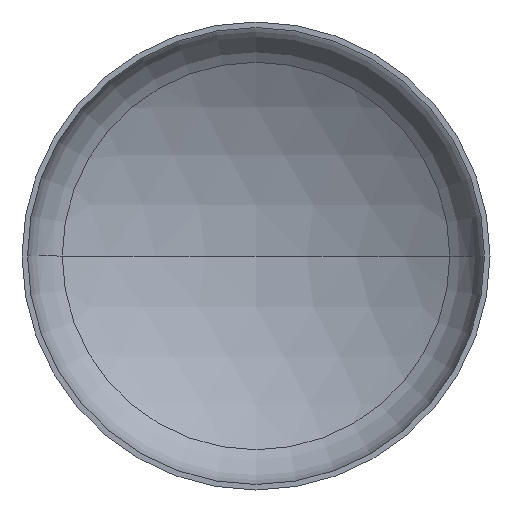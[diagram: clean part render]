
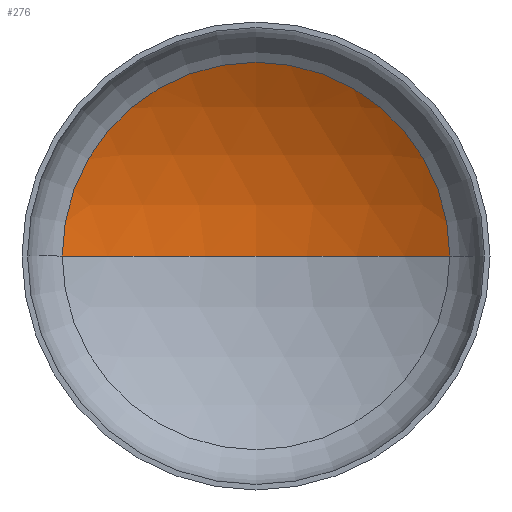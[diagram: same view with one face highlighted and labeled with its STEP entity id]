
A CAD part, front view. The second image highlights one B-rep face of the part: STEP entity #276.
In plain terms, the highlighted spherical face has radius 6000 mm.
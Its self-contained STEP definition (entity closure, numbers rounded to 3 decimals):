
#1 = VERTEX_POINT ( 'NONE', #280 ) ;
#7 = ORIENTED_EDGE ( 'NONE', *, *, #134, .T. ) ;
#21 = ORIENTED_EDGE ( 'NONE', *, *, #136, .T. ) ;
#44 = AXIS2_PLACEMENT_3D ( 'NONE', #167, #390, #173 ) ;
#55 = ORIENTED_EDGE ( 'NONE', *, *, #139, .F. ) ;
#86 = AXIS2_PLACEMENT_3D ( 'NONE', #393, #328, #347 ) ;
#90 = AXIS2_PLACEMENT_3D ( 'NONE', #189, #190, #398 ) ;
#92 = AXIS2_PLACEMENT_3D ( 'NONE', #216, #208, #204 ) ;
#93 = VERTEX_POINT ( 'NONE', #256 ) ;
#104 = EDGE_LOOP ( 'NONE', ( #55, #21, #7 ) ) ;
#115 = VERTEX_POINT ( 'NONE', #234 ) ;
#134 = EDGE_CURVE ( 'NONE', #115, #93, #411, .T. ) ;
#136 = EDGE_CURVE ( 'NONE', #1, #115, #343, .T. ) ;
#139 = EDGE_CURVE ( 'NONE', #1, #93, #230, .T. ) ;
#167 = CARTESIAN_POINT ( 'NONE',  ( 0., -4045.959, 0. ) ) ;
#173 = DIRECTION ( 'NONE',  ( -1., 0., 0. ) ) ;
#189 = CARTESIAN_POINT ( 'NONE',  ( 0., -4045.959, 0. ) ) ;
#190 = DIRECTION ( 'NONE',  ( 0., 0., -1. ) ) ;
#204 = DIRECTION ( 'NONE',  ( 1., 0., 0. ) ) ;
#208 = DIRECTION ( 'NONE',  ( 0., -1., 0. ) ) ;
#216 = CARTESIAN_POINT ( 'NONE',  ( 0., 1088.356, 0. ) ) ;
#230 = CIRCLE ( 'NONE', #86, 6000. ) ;
#234 = CARTESIAN_POINT ( 'NONE',  ( 3104.644, 1088.356, 0. ) ) ;
#256 = CARTESIAN_POINT ( 'NONE',  ( -3104.644, 1088.356, 0. ) ) ;
#272 = SPHERICAL_SURFACE ( 'NONE', #44, 6000. ) ;
#276 = ADVANCED_FACE ( 'NONE', ( #327 ), #272, .F. ) ;
#280 = CARTESIAN_POINT ( 'NONE',  ( 0., 1954.041, 0. ) ) ;
#327 = FACE_OUTER_BOUND ( 'NONE', #104, .T. ) ;
#328 = DIRECTION ( 'NONE',  ( 0., 0., 1. ) ) ;
#343 = CIRCLE ( 'NONE', #90, 6000. ) ;
#347 = DIRECTION ( 'NONE',  ( 1., 0., 0. ) ) ;
#390 = DIRECTION ( 'NONE',  ( 0., 0., -1. ) ) ;
#393 = CARTESIAN_POINT ( 'NONE',  ( 0., -4045.959, 0. ) ) ;
#398 = DIRECTION ( 'NONE',  ( -1., 0., 0. ) ) ;
#411 = CIRCLE ( 'NONE', #92, 3104.644 ) ;
